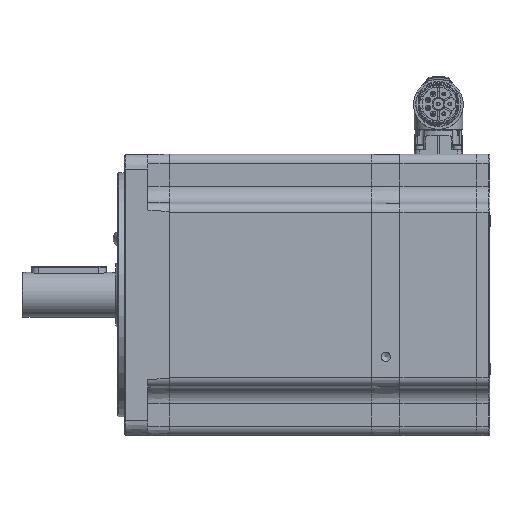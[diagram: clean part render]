
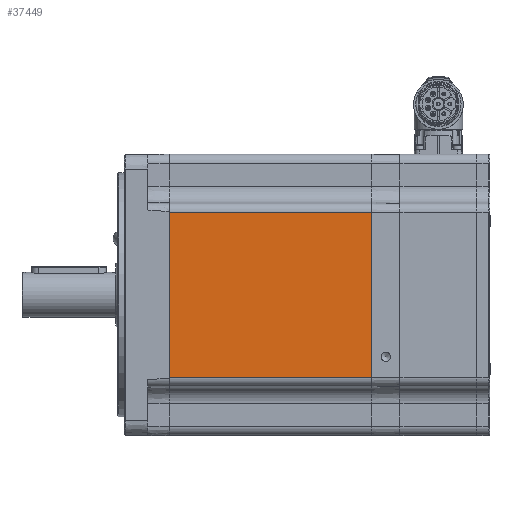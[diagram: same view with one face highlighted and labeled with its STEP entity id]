
A CAD part, left-side view. The second image highlights one B-rep face of the part: STEP entity #37449.
In plain terms, the highlighted planar face has unit normal (-1, 0, 0) as drawn and (0, -1, 0) by its records, which use the part's own axes.
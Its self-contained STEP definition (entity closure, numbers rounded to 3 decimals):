
#2186=LINE('',#59421,#3851);
#2207=LINE('',#59527,#3872);
#2210=LINE('',#59560,#3875);
#2211=LINE('',#59561,#3876);
#3851=VECTOR('',#45456,1000.);
#3872=VECTOR('',#45541,1000.);
#3875=VECTOR('',#45580,1000.);
#3876=VECTOR('',#45581,1000.);
#4681=PLANE('',#39817);
#11383=ORIENTED_EDGE('',*,*,#16081,.F.);
#11384=ORIENTED_EDGE('',*,*,#16146,.T.);
#11385=ORIENTED_EDGE('',*,*,#16133,.T.);
#11386=ORIENTED_EDGE('',*,*,#16147,.T.);
#16081=EDGE_CURVE('',#18979,#18980,#2186,.T.);
#16133=EDGE_CURVE('',#19032,#19031,#2207,.T.);
#16146=EDGE_CURVE('',#18979,#19032,#2210,.T.);
#16147=EDGE_CURVE('',#19031,#18980,#2211,.F.);
#18979=VERTEX_POINT('',#59422);
#18980=VERTEX_POINT('',#59423);
#19031=VERTEX_POINT('',#59526);
#19032=VERTEX_POINT('',#59528);
#22144=EDGE_LOOP('',(#11383,#11384,#11385,#11386));
#24320=FACE_BOUND('',#22144,.T.);
#37449=ADVANCED_FACE('',(#24320),#4681,.T.);
#39817=AXIS2_PLACEMENT_3D('',#59559,#45578,#45579);
#45456=DIRECTION('',(0.,0.,-1.));
#45541=DIRECTION('',(0.,0.,-1.));
#45578=DIRECTION('',(0.,-1.,0.));
#45579=DIRECTION('',(0.,0.,-1.));
#45580=DIRECTION('',(-1.,0.,0.));
#45581=DIRECTION('',(-1.,0.,0.));
#59421=CARTESIAN_POINT('',(-1.,-75.,75.));
#59422=CARTESIAN_POINT('',(-1.,-75.,44.));
#59423=CARTESIAN_POINT('',(-1.,-75.,-44.));
#59526=CARTESIAN_POINT('',(-109.,-75.,-44.));
#59527=CARTESIAN_POINT('',(-109.,-75.,75.));
#59528=CARTESIAN_POINT('',(-109.,-75.,44.));
#59559=CARTESIAN_POINT('',(-300.,-75.,75.));
#59560=CARTESIAN_POINT('',(-300.,-75.,44.));
#59561=CARTESIAN_POINT('',(0.,-75.,-44.));
